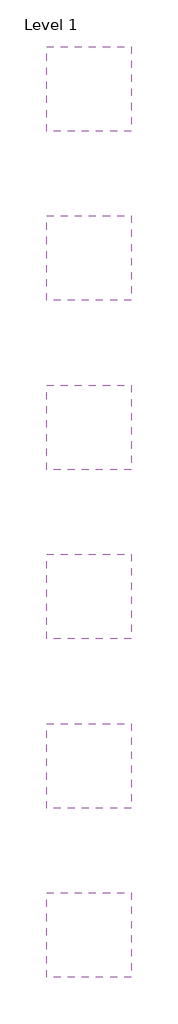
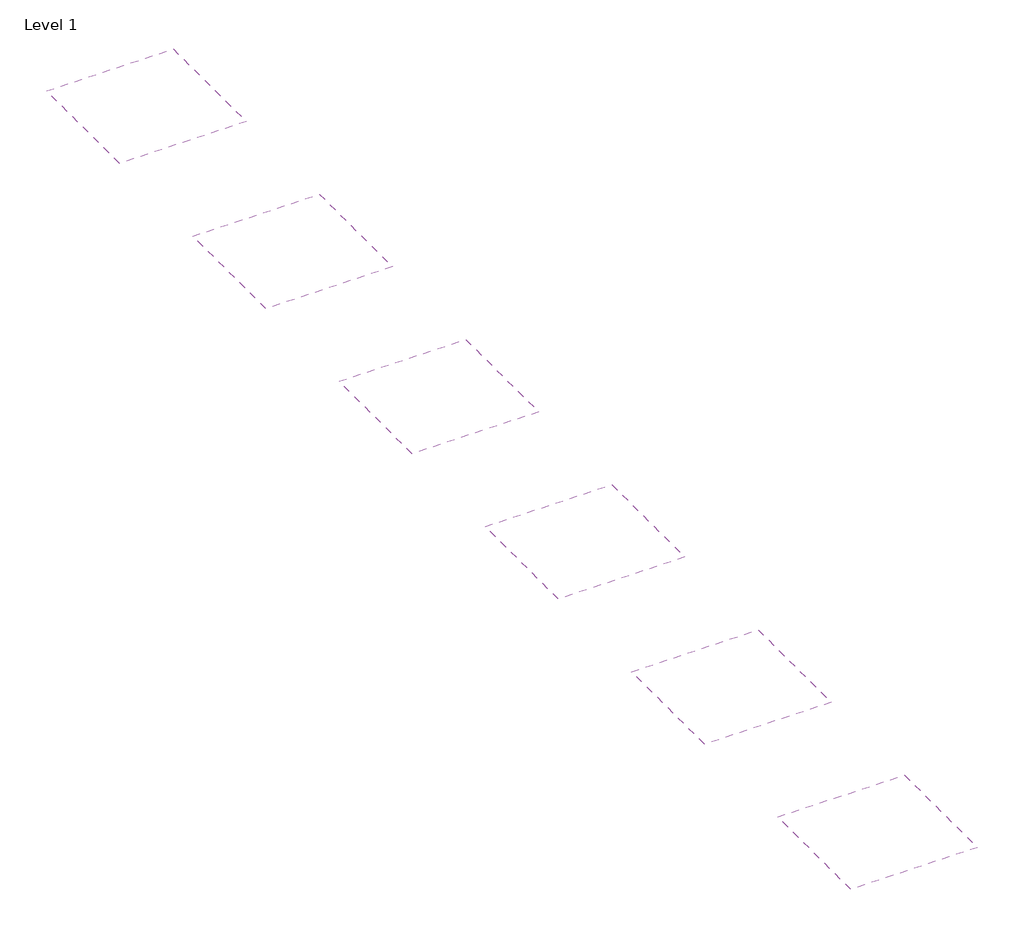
# One storey: 6 coverings.
"""IFC4 building model written with IfcOpenShell, lengths in millimetres."""

from ifc_helpers import new_model, si_unit, frame, origin, place, context, project, spatial, polyline, outline, extrude, element, save

model = new_model("IFC4")

# Units and contexts
model_context = context("Model", 3, world=origin())
ifc_project = project(units=[si_unit("LENGTHUNIT", "METRE", prefix="MILLI")], contexts=[model_context])

# Site, building, storey
site = spatial("IfcSite", under=ifc_project)
building = spatial("IfcBuilding", under=site)
storey = spatial("IfcBuildingStorey", under=building, Name="Level 1", Elevation=0.0)

# Coverings
placement = place(None, origin())
element("IfcCovering", 1, ObjectType="NBS_ArmstrongCeilingsLtd_UnitModularSuspendedCeilingSystem_Ultima+OPMicroLook90-Prelude15Exposed_600x600x20mm_GB", at=placement, inside=storey, context=model_context, shape_type="SweptSolid", body=[
    extrude(outline(polyline([(2500.0, 27500.0), (2500.0, 25000.0), (0.0, 25000.0), (0.0, 27500.0), (2500.0, 27500.0)])), frame((0.0, 0.0, 2600.0), z_axis=(0.0, 0.0, 1.0), x_axis=(1.0, 0.0, 0.0)), (0.0, 0.0, 1.0), 51.0),
])
element("IfcCovering", 2, ObjectType="NBS_ArmstrongCeilingsLtd_UnitModularSuspendedCeilingSystem_Ultima+OPMicroLook90-Interlude15XL²HRCExposed_600x600x20mm_GB", at=placement, inside=storey, context=model_context, shape_type="SweptSolid", body=[
    extrude(outline(polyline([(2500.0, 22500.0), (2500.0, 20000.0), (0.0, 20000.0), (0.0, 22500.0), (2500.0, 22500.0)])), frame((0.0, 0.0, 2600.0), z_axis=(0.0, 0.0, 1.0), x_axis=(1.0, 0.0, 0.0)), (0.0, 0.0, 1.0), 52.0),
])
element("IfcCovering", 3, ObjectType="NBS_ArmstrongCeilingsLtd_UnitModularSuspendedCeilingSystem_Ultima+OPMicroLook90-Silhouette15XL²Exposed_600x600x20mm_GB", at=placement, inside=storey, context=model_context, shape_type="SweptSolid", body=[
    extrude(outline(polyline([(2500.0, 17500.0), (2500.0, 15000.0), (0.0, 15000.0), (0.0, 17500.0), (2500.0, 17500.0)])), frame((0.0, 0.0, 2600.0), z_axis=(0.0, 0.0, 1.0), x_axis=(1.0, 0.0, 0.0)), (0.0, 0.0, 1.0), 52.0),
])
element("IfcCovering", 4, ObjectType="NBS_ArmstrongCeilingsLtd_UnitModularSuspendedCeilingSystem_Ultima+OPMicroLook90-Prelude15Exposed_625x625x20mm_DE", at=placement, inside=storey, context=model_context, shape_type="SweptSolid", body=[
    extrude(outline(polyline([(2500.0, 12500.0), (2500.0, 10000.0), (0.0, 10000.0), (0.0, 12500.0), (2500.0, 12500.0)])), frame((0.0, 0.0, 2600.0), z_axis=(0.0, 0.0, 1.0), x_axis=(1.0, 0.0, 0.0)), (0.0, 0.0, 1.0), 51.0),
])
element("IfcCovering", 5, ObjectType="NBS_ArmstrongCeilingsLtd_UnitModularSuspendedCeilingSystem_Ultima+OPMicroLook90-Prelude15Exposed_675x675x20mm_FR", at=placement, inside=storey, context=model_context, shape_type="SweptSolid", body=[
    extrude(outline(polyline([(2500.0, 7500.0), (2500.0, 5000.0), (0.0, 5000.0), (0.0, 7500.0), (2500.0, 7500.0)])), frame((0.0, 0.0, 2600.0), z_axis=(0.0, 0.0, 1.0), x_axis=(1.0, 0.0, 0.0)), (0.0, 0.0, 1.0), 51.0),
])
element("IfcCovering", 6, ObjectType="NBS_ArmstrongCeilingsLtd_UnitModularSuspendedCeilingSystem_Ultima+OPMicroLook90-Prelude15Exposed_1200x600x20mm_GB", at=placement, inside=storey, context=model_context, shape_type="SweptSolid", body=[
    extrude(outline(polyline([(2500.0, 2500.0), (2500.0, 0.0), (0.0, 0.0), (0.0, 2500.0), (2500.0, 2500.0)])), frame((0.0, 0.0, 2600.0), z_axis=(0.0, 0.0, 1.0), x_axis=(1.0, 0.0, 0.0)), (0.0, 0.0, 1.0), 51.0),
])

save(model, "model.ifc")
